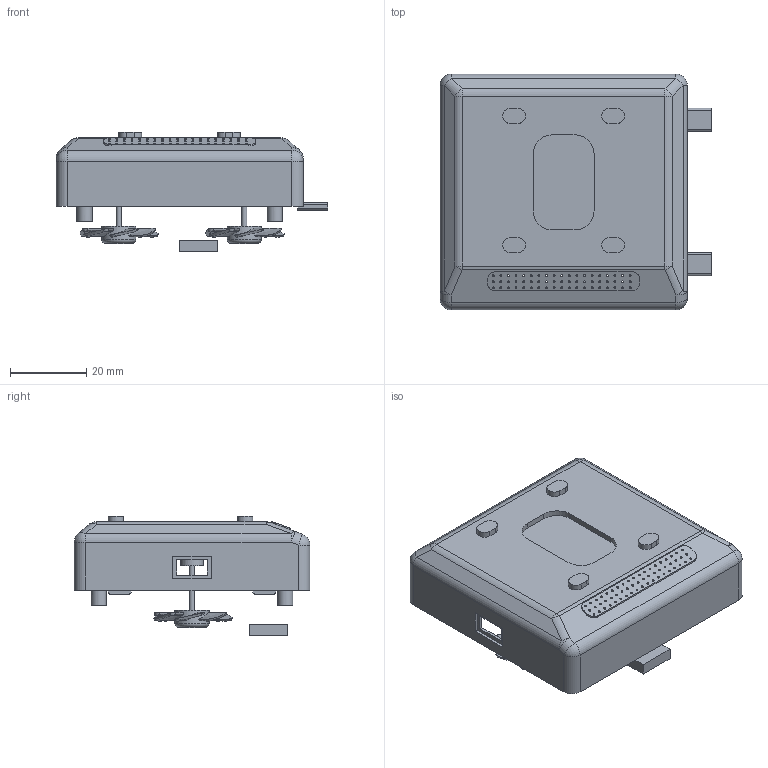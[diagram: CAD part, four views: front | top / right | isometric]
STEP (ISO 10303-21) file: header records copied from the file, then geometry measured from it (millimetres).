
FILE_DESCRIPTION(/* description */ (''),/* implementation_level */ '2;1');
FILE_NAME(/* name */ '样题2.stp',/* time_stamp */ '2021-03-16T12:50:30+08:00',/* author */ (''),/* organization */ (''),/* preprocessor_version */ 'ST-DEVELOPER v16',/* originating_system */ 'SIEMENS PLM Software NX 10.0',/* authorisation */ '');
FILE_SCHEMA (('AUTOMOTIVE_DESIGN { 1 0 10303 214 3 1 1 1 }'));
Length unit declared in the file: millimetre
Products named in the file (9): 电器元件; 外接件; 风扇; 风扇支柱; 喇叭; 电路板1; 按钮1; 屏幕1; 样题2
Assembly tree (14 placements, depth 2):
  样题2
    屏幕1
    按钮1  x4
    电路板1  x2
    喇叭
    风扇支柱  x2
    风扇  x2
    外接件
    电器元件
Bounding box: 71.5 x 62 x 31.5 mm (x, y, z)
Volume: 14960.1 mm3; surface area: 22988.8 mm2
Topology: 16 solids, 18 shells, 551 faces, 1409 edges, 902 vertices
Faces by surface type: plane 230, cylinder 116, bspline 112, extrusion 57, sphere 34, torus 2
Full cylindrical faces by diameter (mm): 1.411 x4, 2 x4, 3.136 x2, 4 x4, 6 x2, 7.168 x2, 8.96 x2
Entity records: 28484 total; most frequent: CARTESIAN_POINT 18453, ORIENTED_EDGE 1996, DIRECTION 1790, EDGE_CURVE 998, VERTEX_POINT 684, EDGE_LOOP 644, AXIS2_PLACEMENT_3D 629, VECTOR 532
